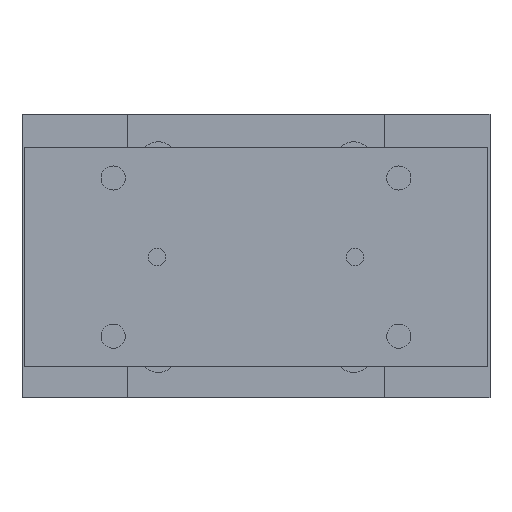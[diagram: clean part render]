
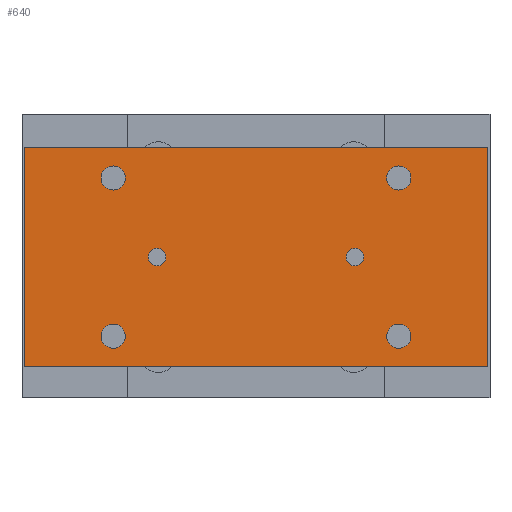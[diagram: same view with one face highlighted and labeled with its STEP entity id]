
A CAD part, left-side view. The second image highlights one B-rep face of the part: STEP entity #640.
In plain terms, the highlighted planar face has unit normal (-1, 0, 0).
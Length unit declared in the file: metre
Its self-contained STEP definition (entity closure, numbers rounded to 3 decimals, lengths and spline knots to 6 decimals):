
#640 = ADVANCED_FACE( '', ( #1424, #1425, #1426, #1427, #1428, #1429, #1430 ), #1431, .T. );
#1424 = FACE_BOUND( '', #2222, .T. );
#1425 = FACE_BOUND( '', #2223, .T. );
#1426 = FACE_BOUND( '', #2224, .T. );
#1427 = FACE_BOUND( '', #2225, .T. );
#1428 = FACE_BOUND( '', #2226, .T. );
#1429 = FACE_BOUND( '', #2227, .T. );
#1430 = FACE_OUTER_BOUND( '', #2228, .T. );
#1431 = PLANE( '', #2229 );
#2222 = EDGE_LOOP( '', ( #3714 ) );
#2223 = EDGE_LOOP( '', ( #3715 ) );
#2224 = EDGE_LOOP( '', ( #3716 ) );
#2225 = EDGE_LOOP( '', ( #3717 ) );
#2226 = EDGE_LOOP( '', ( #3718 ) );
#2227 = EDGE_LOOP( '', ( #3719 ) );
#2228 = EDGE_LOOP( '', ( #3720, #3721, #3722, #3723 ) );
#2229 = AXIS2_PLACEMENT_3D( '', #3724, #3725, #3726 );
#3714 = ORIENTED_EDGE( '', *, *, #4010, .F. );
#3715 = ORIENTED_EDGE( '', *, *, #4094, .F. );
#3716 = ORIENTED_EDGE( '', *, *, #4206, .F. );
#3717 = ORIENTED_EDGE( '', *, *, #4220, .F. );
#3718 = ORIENTED_EDGE( '', *, *, #4187, .F. );
#3719 = ORIENTED_EDGE( '', *, *, #4180, .T. );
#3720 = ORIENTED_EDGE( '', *, *, #3781, .T. );
#3721 = ORIENTED_EDGE( '', *, *, #4165, .T. );
#3722 = ORIENTED_EDGE( '', *, *, #4134, .T. );
#3723 = ORIENTED_EDGE( '', *, *, #4232, .T. );
#3724 = CARTESIAN_POINT( '', ( -0.1445, -0.1055, -0.015 ) );
#3725 = DIRECTION( '', ( -1., 0., 0. ) );
#3726 = DIRECTION( '', ( 0., -1., 0. ) );
#3781 = EDGE_CURVE( '', #4342, #4340, #4343, .T. );
#4010 = EDGE_CURVE( '', #4723, #4723, #4724, .T. );
#4094 = EDGE_CURVE( '', #4852, #4852, #4853, .T. );
#4134 = EDGE_CURVE( '', #4909, #4907, #4910, .T. );
#4165 = EDGE_CURVE( '', #4340, #4909, #4954, .T. );
#4180 = EDGE_CURVE( '', #4976, #4976, #4977, .T. );
#4187 = EDGE_CURVE( '', #4986, #4986, #4987, .T. );
#4206 = EDGE_CURVE( '', #5012, #5012, #5013, .T. );
#4220 = EDGE_CURVE( '', #5029, #5029, #5030, .T. );
#4232 = EDGE_CURVE( '', #4907, #4342, #5045, .T. );
#4340 = VERTEX_POINT( '', #5162 );
#4342 = VERTEX_POINT( '', #5165 );
#4343 = LINE( '', #5166, #5167 );
#4723 = VERTEX_POINT( '', #5787 );
#4724 = CIRCLE( '', #5788, 0.0055 );
#4852 = VERTEX_POINT( '', #5943 );
#4853 = CIRCLE( '', #5944, 0.0055 );
#4907 = VERTEX_POINT( '', #6044 );
#4909 = VERTEX_POINT( '', #6047 );
#4910 = LINE( '', #6048, #6049 );
#4954 = LINE( '', #6135, #6136 );
#4976 = VERTEX_POINT( '', #6162 );
#4977 = CIRCLE( '', #6163, 0.004 );
#4986 = VERTEX_POINT( '', #6176 );
#4987 = CIRCLE( '', #6177, 0.004 );
#5012 = VERTEX_POINT( '', #6273 );
#5013 = CIRCLE( '', #6274, 0.0055 );
#5029 = VERTEX_POINT( '', #6296 );
#5030 = CIRCLE( '', #6297, 0.0055 );
#5045 = LINE( '', #6313, #6314 );
#5162 = CARTESIAN_POINT( '', ( -0.1445, -0.1055, -0.015 ) );
#5165 = CARTESIAN_POINT( '', ( -0.1445, -0.1055, -0.115 ) );
#5166 = CARTESIAN_POINT( '', ( -0.1445, -0.1055, -0.115 ) );
#5167 = VECTOR( '', #6432, 1. );
#5787 = CARTESIAN_POINT( '', ( -0.1445, -0.0705, -0.101 ) );
#5788 = AXIS2_PLACEMENT_3D( '', #6706, #6707, #6708 );
#5943 = CARTESIAN_POINT( '', ( -0.1445, 0.0595, -0.101 ) );
#5944 = AXIS2_PLACEMENT_3D( '', #6829, #6830, #6831 );
#6044 = CARTESIAN_POINT( '', ( -0.1445, 0.1055, -0.115 ) );
#6047 = CARTESIAN_POINT( '', ( -0.1445, 0.1055, -0.015 ) );
#6048 = CARTESIAN_POINT( '', ( -0.1445, 0.1055, -0.015 ) );
#6049 = VECTOR( '', #6870, 1. );
#6135 = CARTESIAN_POINT( '', ( -0.1445, -0.1055, -0.015 ) );
#6136 = VECTOR( '', #6904, 1. );
#6162 = CARTESIAN_POINT( '', ( -0.1445, 0.045, -0.069 ) );
#6163 = AXIS2_PLACEMENT_3D( '', #6927, #6928, #6929 );
#6176 = CARTESIAN_POINT( '', ( -0.1445, -0.045, -0.069 ) );
#6177 = AXIS2_PLACEMENT_3D( '', #6934, #6935, #6936 );
#6273 = CARTESIAN_POINT( '', ( -0.1445, -0.0705, -0.029 ) );
#6274 = AXIS2_PLACEMENT_3D( '', #6954, #6955, #6956 );
#6296 = CARTESIAN_POINT( '', ( -0.1445, 0.0595, -0.029 ) );
#6297 = AXIS2_PLACEMENT_3D( '', #6966, #6967, #6968 );
#6313 = CARTESIAN_POINT( '', ( -0.1445, 0.1055, -0.115 ) );
#6314 = VECTOR( '', #6979, 1. );
#6432 = DIRECTION( '', ( 0., 0., 1. ) );
#6706 = CARTESIAN_POINT( '', ( -0.1445, -0.065, -0.101 ) );
#6707 = DIRECTION( '', ( -1., 0., 0. ) );
#6708 = DIRECTION( '', ( 0., -1., 0. ) );
#6829 = CARTESIAN_POINT( '', ( -0.1445, 0.065, -0.101 ) );
#6830 = DIRECTION( '', ( -1., 0., 0. ) );
#6831 = DIRECTION( '', ( 0., -1., 0. ) );
#6870 = DIRECTION( '', ( 0., 0., -1. ) );
#6904 = DIRECTION( '', ( 0., 1., 0. ) );
#6927 = CARTESIAN_POINT( '', ( -0.1445, 0.045, -0.065 ) );
#6928 = DIRECTION( '', ( 1., 0., 0. ) );
#6929 = DIRECTION( '', ( 0., 0., -1. ) );
#6934 = CARTESIAN_POINT( '', ( -0.1445, -0.045, -0.065 ) );
#6935 = DIRECTION( '', ( -1., 0., 0. ) );
#6936 = DIRECTION( '', ( 0., 0., -1. ) );
#6954 = CARTESIAN_POINT( '', ( -0.1445, -0.065, -0.029 ) );
#6955 = DIRECTION( '', ( -1., 0., 0. ) );
#6956 = DIRECTION( '', ( 0., -1., 0. ) );
#6966 = CARTESIAN_POINT( '', ( -0.1445, 0.065, -0.029 ) );
#6967 = DIRECTION( '', ( -1., 0., 0. ) );
#6968 = DIRECTION( '', ( 0., -1., 0. ) );
#6979 = DIRECTION( '', ( 0., -1., 0. ) );
